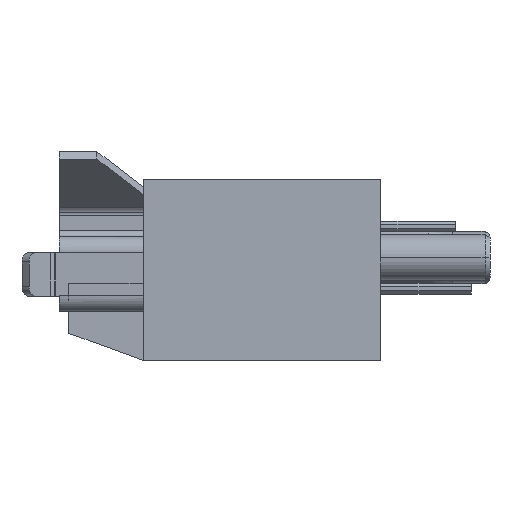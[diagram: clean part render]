
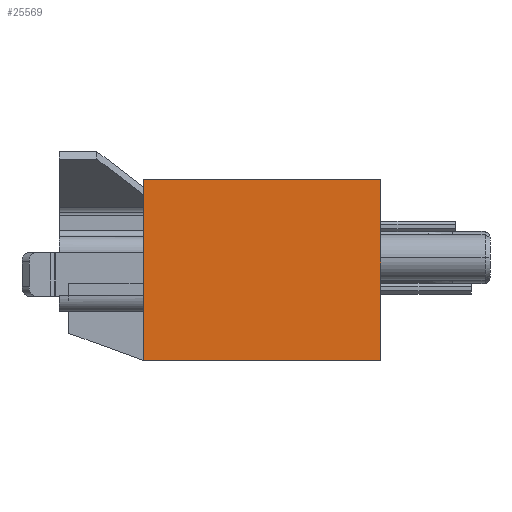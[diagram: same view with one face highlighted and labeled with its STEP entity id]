
A CAD part, left-side view. The second image highlights one B-rep face of the part: STEP entity #25569.
In plain terms, the highlighted planar face has unit normal (-1, 0, 0).
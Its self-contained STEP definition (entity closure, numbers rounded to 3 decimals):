
#72=DIRECTION('',(0.,0.,1.));
#73=VECTOR('',#72,7.366);
#74=CARTESIAN_POINT('',(-62.865,4.89,-3.683));
#75=LINE('',#74,#73);
#76=DIRECTION('',(0.,-1.,0.));
#77=VECTOR('',#76,9.652);
#78=CARTESIAN_POINT('',(-62.865,4.89,3.683));
#79=LINE('',#78,#77);
#80=DIRECTION('',(0.,0.,-1.));
#81=VECTOR('',#80,7.366);
#82=CARTESIAN_POINT('',(-62.865,-4.763,3.683));
#83=LINE('',#82,#81);
#84=DIRECTION('',(0.,1.,0.));
#85=VECTOR('',#84,9.652);
#86=CARTESIAN_POINT('',(-62.865,-4.763,-3.683));
#87=LINE('',#86,#85);
#19332=CARTESIAN_POINT('',(-62.865,-4.763,3.683));
#19333=CARTESIAN_POINT('',(-62.865,-4.763,-3.683));
#19334=VERTEX_POINT('',#19332);
#19335=VERTEX_POINT('',#19333);
#19348=CARTESIAN_POINT('',(-62.865,4.89,-3.683));
#19349=CARTESIAN_POINT('',(-62.865,4.89,3.683));
#19350=VERTEX_POINT('',#19348);
#19351=VERTEX_POINT('',#19349);
#25554=CARTESIAN_POINT('',(-62.865,0.,0.));
#25555=DIRECTION('',(1.,0.,0.));
#25556=DIRECTION('',(0.,0.,1.));
#25557=AXIS2_PLACEMENT_3D('',#25554,#25555,#25556);
#25558=PLANE('',#25557);
#25560=ORIENTED_EDGE('',*,*,#25559,.T.);
#25562=ORIENTED_EDGE('',*,*,#25561,.T.);
#25564=ORIENTED_EDGE('',*,*,#25563,.T.);
#25566=ORIENTED_EDGE('',*,*,#25565,.T.);
#25567=EDGE_LOOP('',(#25560,#25562,#25564,#25566));
#25568=FACE_OUTER_BOUND('',#25567,.F.);
#25569=ADVANCED_FACE('',(#25568),#25558,.F.);
#25559=EDGE_CURVE('',#19350,#19351,#75,.T.);
#25561=EDGE_CURVE('',#19351,#19334,#79,.T.);
#25563=EDGE_CURVE('',#19334,#19335,#83,.T.);
#25565=EDGE_CURVE('',#19335,#19350,#87,.T.);
